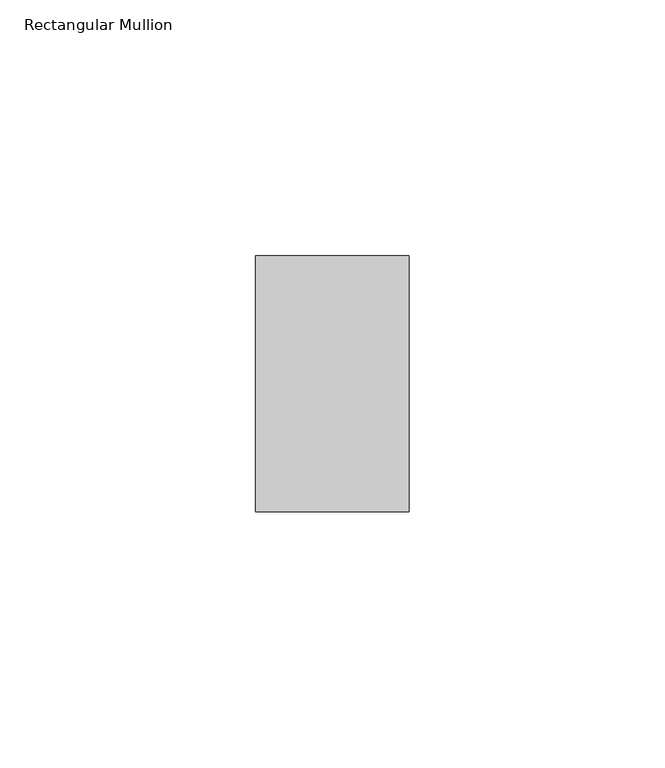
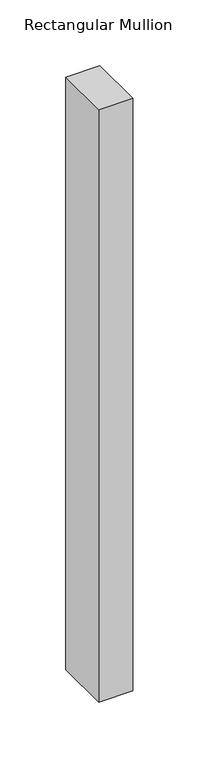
"""IFC4 building model written with IfcOpenShell, lengths in millimetres: member geometry, Rectangular Mullion : ARQ_TV_MULL_50x30mm."""

from ifc_helpers import new_model, si_unit, frame, origin, place, context, project, spatial, polyline, outline, extrude, source, transform, mapped, element, save


def rectangular_mullion_583ac604(model_context):
    return source(origin(), model_context, "Body", "SweptSolid", [
        extrude(outline(polyline([(15.0, 25.0), (15.0, -25.0), (-15.0, -25.0), (-15.0, 25.0), (15.0, 25.0)])), frame((0.0, 0.0, -550.0), z_axis=(0.0, 0.0, 1.0), x_axis=(1.0, 0.0, 0.0)), (0.0, 0.0, 1.0), 550.0),
    ])


if __name__ == "__main__":
    model = new_model("IFC4")
    model_context = context("Model", 3, world=origin())
    ifc_project = project(units=[si_unit("LENGTHUNIT", "METRE", prefix="MILLI")], contexts=[model_context])
    site = spatial("IfcSite", under=ifc_project)
    building = spatial("IfcBuilding", under=site)
    placement = place(None, origin())
    rectangular_mullion_shape = rectangular_mullion_583ac604(model_context)
    element("IfcMember", 1, ObjectType="Rectangular Mullion : ARQ_TV_MULL_50x30mm", at=placement, inside=building, context=model_context, shape_type="MappedRepresentation", body=[
        mapped(rectangular_mullion_shape, transform((0.0, 0.0, 0.0), x_axis=(1.0, 0.0, 0.0), y_axis=(0.0, 1.0, 0.0), z_axis=(0.0, 0.0, 1.0))),
    ])
    save(model, "model.ifc")
